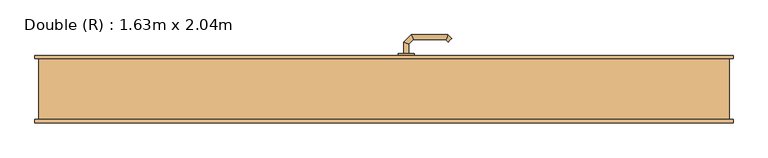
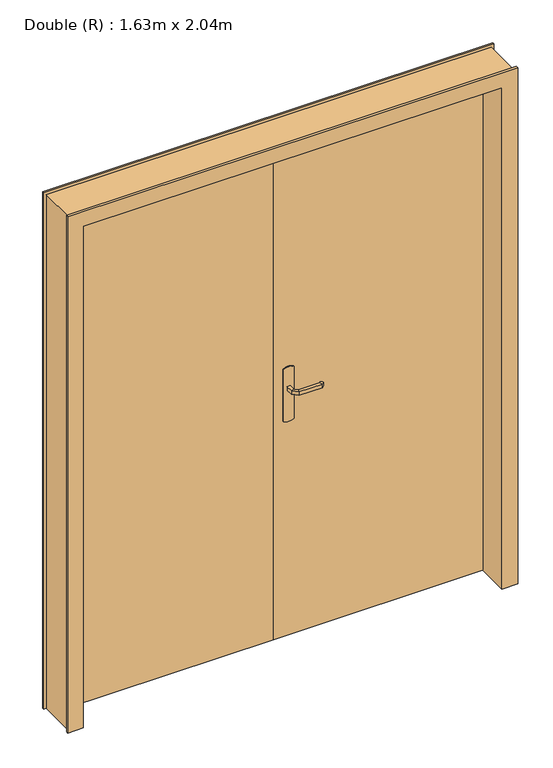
"""IFC4 building model written with IfcOpenShell, lengths in millimetres: door geometry, Double (R) : 1.63m x 2.04m."""

from ifc_helpers import new_model, si_unit, point, frame, frame_2d, origin, origin_with_axes, place, context, project, spatial, polyline, circle_curve, ellipse_curve, trimmed, segment, composite_curve, outline, extrude, faceted_brep, source, transform, mapped, element, save
from ifc_brep_helpers import plane_surface, cylinder_surface, advanced_brep


def double_r_1_63m_x_2_04m_8878719f(model_context):
    return source(origin(), model_context, "Body", "SolidModel", [
        advanced_brep(
        [(61.0, 38.0, 993.0), (49.0, 38.0, 993.0), (49.0, 38.0, 1007.0), (61.0, 38.0, 1007.0), (61.0, 15.5147955, 1007.0), (61.0, 15.5147955, 993.0), (49.0, 10.5442327, 1007.0), (49.0, 10.5442327, 993.0), (72.4852814, 4.0295141, 1007.0), (72.4852814, 4.0295141, 993.0), (67.5147186, -7.9704859, 1007.0), (67.5147186, -7.9704859, 993.0), (152.5605023, 4.0295141, 1007.0), (152.5605023, 4.0295141, 993.0), (157.531065, -7.9704859, 1007.0), (157.531065, -7.9704859, 993.0), (157.8742108, 9.3432226, 993.0), (157.8742108, 9.3432226, 1007.0), (166.3594922, 0.8579412, 1007.0), (166.3594922, 0.8579412, 993.0)],
        [
            (0, 1, circle_curve(frame((55.0, 38.0, 1013.0457722), z_axis=(0.0, 1.0, 0.0), x_axis=(-1.0, 0.0, 0.0)), 20.9244589)),
            (1, 2),
            (2, 3, circle_curve(frame((55.0, 38.0, 986.9542278), z_axis=(0.0, 1.0, 0.0), x_axis=(-1.0, 0.0, 0.0)), 20.9244589)),
            (3, 0),
            (3, 4),
            (4, 5),
            (5, 0),
            (2, 6),
            (6, 4, ellipse_curve(frame((55.0, 13.0295141, 986.9542278), z_axis=(-0.38268343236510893, 0.9238795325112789, 0.0), x_axis=(0.9238795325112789, 0.3826834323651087, 0.0)), 22.6484711, 20.9244589)),
            (1, 7),
            (7, 6),
            (5, 7, ellipse_curve(frame((55.0, 13.0295141, 1013.0457722), z_axis=(-0.38268343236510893, 0.9238795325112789, 0.0), x_axis=(0.9238795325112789, 0.3826834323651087, 0.0)), 22.6484711, 20.9244589)),
            (4, 8),
            (8, 9),
            (9, 5),
            (6, 10),
            (10, 8, ellipse_curve(frame((70.0, -1.9704859, 986.9542278), z_axis=(-0.9238795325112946, 0.38268343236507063, 0.0), x_axis=(0.3826834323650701, 0.9238795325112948, 0.0)), 22.6484711, 20.9244589)),
            (7, 11),
            (11, 10),
            (9, 11, ellipse_curve(frame((70.0, -1.9704859, 1013.0457722), z_axis=(-0.9238795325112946, 0.38268343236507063, 0.0), x_axis=(0.3826834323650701, 0.9238795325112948, 0.0)), 22.6484711, 20.9244589)),
            (8, 12),
            (12, 13),
            (13, 9),
            (10, 14),
            (14, 12, ellipse_curve(frame((155.0457837, -1.9704859, 986.9542278), z_axis=(-0.9238795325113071, -0.38268343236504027, 0.0), x_axis=(-0.38268343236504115, 0.9238795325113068, 0.0)), 22.6484711, 20.9244589)),
            (11, 15),
            (15, 14),
            (13, 15, ellipse_curve(frame((155.0457837, -1.9704859, 1013.0457722), z_axis=(-0.9238795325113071, -0.38268343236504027, 0.0), x_axis=(-0.38268343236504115, 0.9238795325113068, 0.0)), 22.6484711, 20.9244589)),
            (16, 17),
            (17, 18, circle_curve(frame((162.1168515, 5.1005819, 986.9542278), z_axis=(0.7071067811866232, 0.7071067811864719, 0.0), x_axis=(0.7071067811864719, -0.7071067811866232, 0.0)), 20.9244589)),
            (18, 19),
            (19, 16, circle_curve(frame((162.1168515, 5.1005819, 1013.0457722), z_axis=(0.7071067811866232, 0.7071067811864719, 0.0), x_axis=(0.7071067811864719, -0.7071067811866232, 0.0)), 20.9244589)),
            (12, 17),
            (16, 13),
            (14, 18),
            (15, 19),
        ],
        [
            plane_surface(frame((45.7804555, 38.0, 1000.0), z_axis=(0.0, 1.0, 0.0), x_axis=(0.0, 0.0, 1.0))),
            plane_surface(frame((61.0, 38.0, 993.0), z_axis=(1.0, 0.0, 0.0), x_axis=(0.0, -1.0, 0.0))),
            cylinder_surface(frame((55.0, 38.0, 986.9542278), z_axis=(0.0, 1.0, 0.0), x_axis=(-1.0, 0.0, 0.0)), 20.9244589),
            plane_surface(frame((49.0, 38.0, 1007.0), z_axis=(-1.0, 0.0, 0.0), x_axis=(0.0, -1.0, 0.0))),
            cylinder_surface(frame((55.0, 38.0, 1013.0457722), z_axis=(0.0, 1.0, 0.0), x_axis=(-1.0, 0.0, 0.0)), 20.9244589),
            plane_surface(frame((61.0, 15.5147955, 993.0), z_axis=(0.707106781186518, 0.707106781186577, 0.0), x_axis=(0.707106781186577, -0.707106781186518, 0.0))),
            cylinder_surface(frame((55.0, 13.0295141, 986.9542278), z_axis=(-0.7071067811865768, 0.7071067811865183, 0.0), x_axis=(-0.7071067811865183, -0.7071067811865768, 0.0)), 20.9244589),
            plane_surface(frame((49.0, 10.5442327, 1007.0), z_axis=(-0.7071067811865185, -0.7071067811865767, 0.0), x_axis=(0.7071067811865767, -0.7071067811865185, 0.0))),
            cylinder_surface(frame((55.0, 13.0295141, 1013.0457722), z_axis=(-0.7071067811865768, 0.7071067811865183, 0.0), x_axis=(-0.7071067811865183, -0.7071067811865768, 0.0)), 20.9244589),
            plane_surface(frame((72.4852814, 4.0295141, 993.0), z_axis=(0.0, 1.0, 0.0), x_axis=(1.0, 0.0, 0.0))),
            cylinder_surface(frame((70.0, -1.9704859, 986.9542278), z_axis=(-1.0, 0.0, 0.0), x_axis=(0.0, -1.0, 0.0)), 20.9244589),
            plane_surface(frame((67.5147186, -7.9704859, 1007.0), z_axis=(0.0, -1.0, 0.0), x_axis=(1.0, 0.0, 0.0))),
            cylinder_surface(frame((70.0, -1.9704859, 1013.0457722), z_axis=(-1.0, 0.0, 0.0), x_axis=(0.0, -1.0, 0.0)), 20.9244589),
            plane_surface(frame((162.1168515, 5.1005819, 990.7804555), z_axis=(0.7071067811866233, 0.7071067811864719, 0.0), x_axis=(0.7071067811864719, -0.7071067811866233, 0.0))),
            plane_surface(frame((152.5605023, 4.0295141, 993.0), z_axis=(-0.707106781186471, 0.7071067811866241, 0.0), x_axis=(0.7071067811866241, 0.707106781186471, 0.0))),
            cylinder_surface(frame((155.0457837, -1.9704859, 986.9542278), z_axis=(-0.7071067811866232, -0.7071067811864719, 0.0), x_axis=(0.7071067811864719, -0.7071067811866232, 0.0)), 20.9244589),
            plane_surface(frame((157.531065, -7.9704859, 1007.0), z_axis=(0.7071067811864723, -0.7071067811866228, 0.0), x_axis=(0.7071067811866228, 0.7071067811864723, 0.0))),
            cylinder_surface(frame((155.0457837, -1.9704859, 1013.0457722), z_axis=(-0.7071067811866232, -0.7071067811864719, 0.0), x_axis=(0.7071067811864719, -0.7071067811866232, 0.0)), 20.9244589),
        ],
        [
            (0, [[1, 2, 3, 4]]),
            (1, [[5, 6, 7, -4]]),
            (2, [[8, 9, -5, -3]]),
            (3, [[10, 11, -8, -2]]),
            (4, [[-7, 12, -10, -1]]),
            (5, [[13, 14, 15, -6]]),
            (6, [[16, 17, -13, -9]]),
            (7, [[18, 19, -16, -11]]),
            (8, [[-15, 20, -18, -12]]),
            (9, [[21, 22, 23, -14]]),
            (10, [[24, 25, -21, -17]]),
            (11, [[26, 27, -24, -19]]),
            (12, [[-23, 28, -26, -20]]),
            (13, [[29, 30, 31, 32]]),
            (14, [[33, -29, 34, -22]]),
            (15, [[35, -30, -33, -25]]),
            (16, [[36, -31, -35, -27]]),
            (17, [[-34, -32, -36, -28]]),
        ],
    ),
        advanced_brep(
        [(49.0, 88.0, 1007.0), (49.0, 88.0, 993.0), (61.0, 88.0, 993.0), (61.0, 88.0, 1007.0), (61.0, 110.680388, 1007.0), (49.0, 115.6509507, 1007.0), (61.0, 110.680388, 993.0), (49.0, 115.6509507, 993.0), (72.3477727, 122.0281607, 1007.0), (67.37721, 134.0281607, 1007.0), (72.3477727, 122.0281607, 993.0), (67.37721, 134.0281607, 993.0), (152.5333592, 122.0281607, 1007.0), (157.503922, 134.0281607, 1007.0), (152.5333592, 122.0281607, 993.0), (157.503922, 134.0281607, 993.0), (166.3323491, 125.1997336, 1007.0), (157.8470677, 116.7144522, 1007.0), (157.8470677, 116.7144522, 993.0), (166.3323491, 125.1997336, 993.0)],
        [
            (0, 1),
            (1, 2, circle_curve(frame((55.0, 88.0, 1013.0457722), z_axis=(0.0, -1.0, 0.0), x_axis=(1.0, 0.0, 0.0)), 20.9244589)),
            (2, 3),
            (3, 0, circle_curve(frame((55.0, 88.0, 986.9542278), z_axis=(0.0, -1.0, 0.0), x_axis=(1.0, 0.0, 0.0)), 20.9244589)),
            (3, 4),
            (4, 5, ellipse_curve(frame((55.0, 113.1656693, 986.9542278), z_axis=(-0.3826834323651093, -0.9238795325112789, 0.0), x_axis=(0.9238795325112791, -0.38268343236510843, 0.0)), 22.6484711, 20.9244589)),
            (5, 0),
            (2, 6),
            (6, 4),
            (1, 7),
            (7, 6, ellipse_curve(frame((55.0, 113.1656693, 1013.0457722), z_axis=(-0.3826834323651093, -0.9238795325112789, 0.0), x_axis=(0.9238795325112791, -0.38268343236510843, 0.0)), 22.6484711, 20.9244589)),
            (5, 7),
            (4, 8),
            (8, 9, ellipse_curve(frame((69.8624914, 128.0281607, 986.9542278), z_axis=(-0.9238795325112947, -0.38268343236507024, 0.0), x_axis=(0.3826834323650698, -0.9238795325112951, 0.0)), 22.6484711, 20.9244589)),
            (9, 5),
            (6, 10),
            (10, 8),
            (7, 11),
            (11, 10, ellipse_curve(frame((69.8624914, 128.0281607, 1013.0457722), z_axis=(-0.9238795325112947, -0.38268343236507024, 0.0), x_axis=(0.3826834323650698, -0.9238795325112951, 0.0)), 22.6484711, 20.9244589)),
            (9, 11),
            (8, 12),
            (12, 13, ellipse_curve(frame((155.0186406, 128.0281607, 986.9542278), z_axis=(-0.9238795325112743, 0.3826834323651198, 0.0), x_axis=(-0.38268343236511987, -0.9238795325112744, 0.0)), 22.6484711, 20.9244589)),
            (13, 9),
            (10, 14),
            (14, 12),
            (11, 15),
            (15, 14, ellipse_curve(frame((155.0186406, 128.0281607, 1013.0457722), z_axis=(-0.9238795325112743, 0.3826834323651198, 0.0), x_axis=(-0.38268343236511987, -0.9238795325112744, 0.0)), 22.6484711, 20.9244589)),
            (13, 15),
            (16, 17, circle_curve(frame((162.0897084, 120.9570929, 986.9542278), z_axis=(0.7071067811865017, -0.7071067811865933, 0.0), x_axis=(-0.7071067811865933, -0.7071067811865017, 0.0)), 20.9244589)),
            (17, 18),
            (18, 19, circle_curve(frame((162.0897084, 120.9570929, 1013.0457722), z_axis=(0.7071067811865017, -0.7071067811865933, 0.0), x_axis=(-0.7071067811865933, -0.7071067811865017, 0.0)), 20.9244589)),
            (19, 16),
            (12, 17),
            (16, 13),
            (14, 18),
            (15, 19),
        ],
        [
            plane_surface(frame((45.7804555, 88.0, 1000.0), z_axis=(0.0, -1.0, 0.0), x_axis=(0.0, 0.0, -1.0))),
            cylinder_surface(frame((55.0, 88.0, 986.9542278), z_axis=(0.0, -1.0, 0.0), x_axis=(1.0, 0.0, 0.0)), 20.9244589),
            plane_surface(frame((61.0, 88.0, 1007.0), z_axis=(1.0, 0.0, 0.0), x_axis=(0.0, 1.0, 0.0))),
            cylinder_surface(frame((55.0, 88.0, 1013.0457722), z_axis=(0.0, -1.0, 0.0), x_axis=(1.0, 0.0, 0.0)), 20.9244589),
            plane_surface(frame((49.0, 88.0, 993.0), z_axis=(-1.0, 0.0, 0.0), x_axis=(0.0, 1.0, 0.0))),
            cylinder_surface(frame((55.0, 113.1656693, 986.9542278), z_axis=(-0.7071067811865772, -0.7071067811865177, 0.0), x_axis=(0.7071067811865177, -0.7071067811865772, 0.0)), 20.9244589),
            plane_surface(frame((61.0, 110.680388, 1007.0), z_axis=(0.7071067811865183, -0.7071067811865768, 0.0), x_axis=(0.7071067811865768, 0.7071067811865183, 0.0))),
            cylinder_surface(frame((55.0, 113.1656693, 1013.0457722), z_axis=(-0.7071067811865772, -0.7071067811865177, 0.0), x_axis=(0.7071067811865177, -0.7071067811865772, 0.0)), 20.9244589),
            plane_surface(frame((49.0, 115.6509507, 993.0), z_axis=(-0.707106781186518, 0.707106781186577, 0.0), x_axis=(0.707106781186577, 0.707106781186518, 0.0))),
            cylinder_surface(frame((69.8624914, 128.0281607, 986.9542278), z_axis=(-1.0, 0.0, 0.0), x_axis=(0.0, -1.0, 0.0)), 20.9244589),
            plane_surface(frame((72.3477727, 122.0281607, 1007.0), z_axis=(0.0, -1.0, 0.0), x_axis=(1.0, 0.0, 0.0))),
            cylinder_surface(frame((69.8624914, 128.0281607, 1013.0457722), z_axis=(-1.0, 0.0, 0.0), x_axis=(0.0, -1.0, 0.0)), 20.9244589),
            plane_surface(frame((67.37721, 134.0281607, 993.0), z_axis=(0.0, 1.0, 0.0), x_axis=(1.0, 0.0, 0.0))),
            plane_surface(frame((162.0897084, 120.9570929, 1009.2195445), z_axis=(0.7071067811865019, -0.7071067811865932, 0.0), x_axis=(0.7071067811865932, 0.7071067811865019, 0.0))),
            cylinder_surface(frame((155.0186406, 128.0281607, 986.9542278), z_axis=(-0.7071067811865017, 0.7071067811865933, 0.0), x_axis=(-0.7071067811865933, -0.7071067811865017, 0.0)), 20.9244589),
            plane_surface(frame((152.5333592, 122.0281607, 1007.0), z_axis=(-0.7071067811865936, -0.7071067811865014, 0.0), x_axis=(0.7071067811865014, -0.7071067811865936, 0.0))),
            cylinder_surface(frame((155.0186406, 128.0281607, 1013.0457722), z_axis=(-0.7071067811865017, 0.7071067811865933, 0.0), x_axis=(-0.7071067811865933, -0.7071067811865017, 0.0)), 20.9244589),
            plane_surface(frame((157.503922, 134.0281607, 993.0), z_axis=(0.707106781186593, 0.7071067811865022, 0.0), x_axis=(0.7071067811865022, -0.707106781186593, 0.0))),
        ],
        [
            (0, [[1, 2, 3, 4]]),
            (1, [[5, 6, 7, -4]]),
            (2, [[8, 9, -5, -3]]),
            (3, [[10, 11, -8, -2]]),
            (4, [[-7, 12, -10, -1]]),
            (5, [[13, 14, 15, -6]]),
            (6, [[16, 17, -13, -9]]),
            (7, [[18, 19, -16, -11]]),
            (8, [[-15, 20, -18, -12]]),
            (9, [[21, 22, 23, -14]]),
            (10, [[24, 25, -21, -17]]),
            (11, [[26, 27, -24, -19]]),
            (12, [[-23, 28, -26, -20]]),
            (13, [[29, 30, 31, 32]]),
            (14, [[33, -29, 34, -22]]),
            (15, [[35, -30, -33, -25]]),
            (16, [[36, -31, -35, -27]]),
            (17, [[-34, -32, -36, -28]]),
        ],
    ),
        extrude(outline(composite_curve([segment(trimmed(circle_curve(frame_2d((1045.3589838, 55.0)), 40.0), [point((1080.0, 75.0))], [point((1080.0, 35.0))], False, "CARTESIAN"), True, "CONTINUOUS"), segment(polyline([(1080.0, 35.0), (870.0, 35.0)]), True, "CONTINUOUS"), segment(trimmed(circle_curve(frame_2d((904.6410162, 55.0)), 40.0), [point((870.0, 35.0))], [point((870.0, 75.0))], False, "CARTESIAN"), True, "CONTINUOUS"), segment(polyline([(870.0, 75.0), (1080.0, 75.0)]), True, "CONTINUOUS")], self_intersect=False)), frame((0.0, 38.0, 0.0), z_axis=(0.0, 1.0, 0.0), x_axis=(0.0, 0.0, 1.0)), (0.0, 0.0, 1.0), 5.0),
        extrude(outline(composite_curve([segment(trimmed(circle_curve(frame_2d((904.6410162, 55.0)), 40.0), [point((870.0, 35.0))], [point((870.0, 75.0))], False, "CARTESIAN"), True, "CONTINUOUS"), segment(polyline([(870.0, 75.0), (1080.0, 75.0)]), True, "CONTINUOUS"), segment(trimmed(circle_curve(frame_2d((1045.3589838, 55.0)), 40.0), [point((1080.0, 75.0))], [point((1080.0, 35.0))], False, "CARTESIAN"), True, "CONTINUOUS"), segment(polyline([(1080.0, 35.0), (870.0, 35.0)]), True, "CONTINUOUS")], self_intersect=False)), frame((0.0, 83.0, 0.0), z_axis=(0.0, 1.0, 0.0), x_axis=(0.0, 0.0, 1.0)), (0.0, 0.0, 1.0), 5.0),
        faceted_brep([(-850.0, 75.0, 0.0), (-860.0, 75.0, 0.0), (-860.0, 83.0, 0.0), (-815.0, 83.0, 0.0), (-815.0, 43.0, 0.0), (-800.0, 43.0, 0.0), (-800.0, -83.0, 0.0), (-860.0, -83.0, 0.0), (-860.0, -75.0, 0.0), (-850.0, -75.0, 0.0), (-850.0, -75.0, 2075.0), (-850.0, 75.0, 2075.0), (-860.0, -75.0, 2085.0), (860.0, -75.0, 2085.0), (860.0, -75.0, 0.0), (850.0, -75.0, 0.0), (850.0, -75.0, 2075.0), (-860.0, -83.0, 2085.0), (-800.0, -83.0, 2025.0), (800.0, -83.0, 2025.0), (800.0, -83.0, 0.0), (860.0, -83.0, 0.0), (860.0, -83.0, 2085.0), (-800.0, 43.0, 2025.0), (-815.0, 43.0, 2040.0), (815.0, 43.0, 2040.0), (815.0, 43.0, 0.0), (800.0, 43.0, 0.0), (800.0, 43.0, 2025.0), (-815.0, 83.0, 2040.0), (-860.0, 83.0, 2085.0), (860.0, 83.0, 2085.0), (860.0, 83.0, 0.0), (815.0, 83.0, 0.0), (815.0, 83.0, 2040.0), (-860.0, 75.0, 2085.0), (850.0, 75.0, 2075.0), (850.0, 75.0, 0.0), (860.0, 75.0, 0.0), (860.0, 75.0, 2085.0)], [[[0, 1, 2, 3, 4, 5, 6, 7, 8, 9]], [[9, 10, 11, 0]], [[8, 12, 13, 14, 15, 16, 10, 9]], [[7, 17, 12, 8]], [[6, 18, 19, 20, 21, 22, 17, 7]], [[5, 23, 18, 6]], [[4, 24, 25, 26, 27, 28, 23, 5]], [[3, 29, 24, 4]], [[2, 30, 31, 32, 33, 34, 29, 3]], [[1, 35, 30, 2]], [[0, 11, 36, 37, 38, 39, 35, 1]], [[16, 15, 37, 36]], [[37, 15, 14, 21, 20, 27, 26, 33, 32, 38]], [[22, 21, 14, 13]], [[28, 27, 20, 19]], [[34, 33, 26, 25]], [[39, 38, 32, 31]], [[10, 16, 36, 11]], [[17, 22, 13, 12]], [[23, 28, 19, 18]], [[29, 34, 25, 24]], [[35, 39, 31, 30]]]),
        extrude(outline(polyline([(815.0, 83.0), (815.0, 43.0), (0.0, 43.0), (0.0, 83.0), (815.0, 83.0)])), origin_with_axes(), (0.0, 0.0, 1.0), 2040.0),
        extrude(outline(polyline([(0.0, 83.0), (0.0, 43.0), (-815.0, 43.0), (-815.0, 83.0), (0.0, 83.0)])), origin_with_axes(), (0.0, 0.0, 1.0), 2040.0),
    ])


if __name__ == "__main__":
    model = new_model("IFC4")
    model_context = context("Model", 3, world=origin())
    ifc_project = project(units=[si_unit("LENGTHUNIT", "METRE", prefix="MILLI")], contexts=[model_context])
    site = spatial("IfcSite", under=ifc_project)
    building = spatial("IfcBuilding", under=site)
    placement = place(None, origin())
    double_r_1_63m_x_2_04m_shape = double_r_1_63m_x_2_04m_8878719f(model_context)
    element("IfcDoor", 1, ObjectType="Double (R) : 1.63m x 2.04m", at=placement, inside=building, context=model_context, shape_type="MappedRepresentation", body=[
        mapped(double_r_1_63m_x_2_04m_shape, transform((0.0, 0.0, 0.0), x_axis=(1.0, 0.0, 0.0), y_axis=(0.0, 1.0, 0.0), z_axis=(0.0, 0.0, 1.0))),
    ])
    save(model, "model.ifc")
